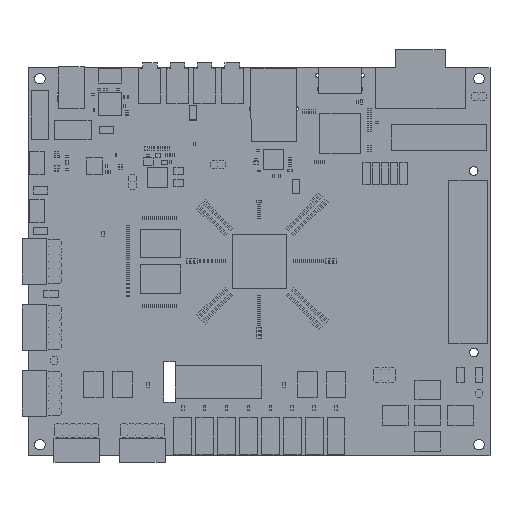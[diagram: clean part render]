
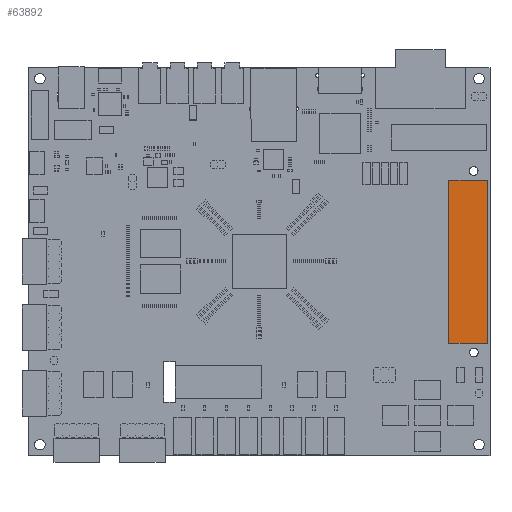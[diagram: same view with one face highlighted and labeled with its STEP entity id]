
A CAD part, top view. The second image highlights one B-rep face of the part: STEP entity #63892.
In plain terms, the highlighted planar face has unit normal (0, 0, 1).
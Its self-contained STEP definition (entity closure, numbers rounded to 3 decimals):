
#63578 = VERTEX_POINT('',#63579);
#63579 = CARTESIAN_POINT('',(-6.625,28.3,4.37));
#63586 = PLANE('',#63587);
#63587 = AXIS2_PLACEMENT_3D('',#63588,#63589,#63590);
#63588 = CARTESIAN_POINT('',(-6.625,28.3,0.));
#63589 = DIRECTION('',(0.,1.,0.));
#63590 = DIRECTION('',(1.,0.,0.));
#63598 = PLANE('',#63599);
#63599 = AXIS2_PLACEMENT_3D('',#63600,#63601,#63602);
#63600 = CARTESIAN_POINT('',(-6.625,-28.3,0.));
#63601 = DIRECTION('',(-1.,0.,0.));
#63602 = DIRECTION('',(0.,1.,0.));
#63610 = EDGE_CURVE('',#63578,#63611,#63613,.T.);
#63611 = VERTEX_POINT('',#63612);
#63612 = CARTESIAN_POINT('',(6.625,28.3,4.37));
#63613 = SURFACE_CURVE('',#63614,(#63618,#63625),.PCURVE_S1.);
#63614 = LINE('',#63615,#63616);
#63615 = CARTESIAN_POINT('',(-6.625,28.3,4.37));
#63616 = VECTOR('',#63617,1.);
#63617 = DIRECTION('',(1.,0.,0.));
#63618 = PCURVE('',#63586,#63619);
#63619 = DEFINITIONAL_REPRESENTATION('',(#63620),#63624);
#63620 = LINE('',#63621,#63622);
#63621 = CARTESIAN_POINT('',(0.,-4.37));
#63622 = VECTOR('',#63623,1.);
#63623 = DIRECTION('',(1.,0.));
#63624 = ( GEOMETRIC_REPRESENTATION_CONTEXT(2) 
PARAMETRIC_REPRESENTATION_CONTEXT() REPRESENTATION_CONTEXT('2D SPACE',''
  ) );
#63625 = PCURVE('',#63626,#63631);
#63626 = PLANE('',#63627);
#63627 = AXIS2_PLACEMENT_3D('',#63628,#63629,#63630);
#63628 = CARTESIAN_POINT('',(-6.625,28.3,4.37));
#63629 = DIRECTION('',(0.,0.,1.));
#63630 = DIRECTION('',(1.,0.,0.));
#63631 = DEFINITIONAL_REPRESENTATION('',(#63632),#63636);
#63632 = LINE('',#63633,#63634);
#63633 = CARTESIAN_POINT('',(0.,0.));
#63634 = VECTOR('',#63635,1.);
#63635 = DIRECTION('',(1.,0.));
#63636 = ( GEOMETRIC_REPRESENTATION_CONTEXT(2) 
PARAMETRIC_REPRESENTATION_CONTEXT() REPRESENTATION_CONTEXT('2D SPACE',''
  ) );
#63654 = PLANE('',#63655);
#63655 = AXIS2_PLACEMENT_3D('',#63656,#63657,#63658);
#63656 = CARTESIAN_POINT('',(6.625,28.3,0.));
#63657 = DIRECTION('',(1.,0.,0.));
#63658 = DIRECTION('',(0.,-1.,0.));
#63696 = EDGE_CURVE('',#63611,#63697,#63699,.T.);
#63697 = VERTEX_POINT('',#63698);
#63698 = CARTESIAN_POINT('',(6.625,-28.3,4.37));
#63699 = SURFACE_CURVE('',#63700,(#63704,#63711),.PCURVE_S1.);
#63700 = LINE('',#63701,#63702);
#63701 = CARTESIAN_POINT('',(6.625,28.3,4.37));
#63702 = VECTOR('',#63703,1.);
#63703 = DIRECTION('',(0.,-1.,0.));
#63704 = PCURVE('',#63654,#63705);
#63705 = DEFINITIONAL_REPRESENTATION('',(#63706),#63710);
#63706 = LINE('',#63707,#63708);
#63707 = CARTESIAN_POINT('',(0.,-4.37));
#63708 = VECTOR('',#63709,1.);
#63709 = DIRECTION('',(1.,0.));
#63710 = ( GEOMETRIC_REPRESENTATION_CONTEXT(2) 
PARAMETRIC_REPRESENTATION_CONTEXT() REPRESENTATION_CONTEXT('2D SPACE',''
  ) );
#63711 = PCURVE('',#63626,#63712);
#63712 = DEFINITIONAL_REPRESENTATION('',(#63713),#63717);
#63713 = LINE('',#63714,#63715);
#63714 = CARTESIAN_POINT('',(13.25,0.));
#63715 = VECTOR('',#63716,1.);
#63716 = DIRECTION('',(0.,-1.));
#63717 = ( GEOMETRIC_REPRESENTATION_CONTEXT(2) 
PARAMETRIC_REPRESENTATION_CONTEXT() REPRESENTATION_CONTEXT('2D SPACE',''
  ) );
#63735 = PLANE('',#63736);
#63736 = AXIS2_PLACEMENT_3D('',#63737,#63738,#63739);
#63737 = CARTESIAN_POINT('',(6.625,-28.3,0.));
#63738 = DIRECTION('',(0.,-1.,0.));
#63739 = DIRECTION('',(-1.,0.,0.));
#63772 = EDGE_CURVE('',#63697,#63773,#63775,.T.);
#63773 = VERTEX_POINT('',#63774);
#63774 = CARTESIAN_POINT('',(-6.625,-28.3,4.37));
#63775 = SURFACE_CURVE('',#63776,(#63780,#63787),.PCURVE_S1.);
#63776 = LINE('',#63777,#63778);
#63777 = CARTESIAN_POINT('',(6.625,-28.3,4.37));
#63778 = VECTOR('',#63779,1.);
#63779 = DIRECTION('',(-1.,0.,0.));
#63780 = PCURVE('',#63735,#63781);
#63781 = DEFINITIONAL_REPRESENTATION('',(#63782),#63786);
#63782 = LINE('',#63783,#63784);
#63783 = CARTESIAN_POINT('',(0.,-4.37));
#63784 = VECTOR('',#63785,1.);
#63785 = DIRECTION('',(1.,0.));
#63786 = ( GEOMETRIC_REPRESENTATION_CONTEXT(2) 
PARAMETRIC_REPRESENTATION_CONTEXT() REPRESENTATION_CONTEXT('2D SPACE',''
  ) );
#63787 = PCURVE('',#63626,#63788);
#63788 = DEFINITIONAL_REPRESENTATION('',(#63789),#63793);
#63789 = LINE('',#63790,#63791);
#63790 = CARTESIAN_POINT('',(13.25,-56.6));
#63791 = VECTOR('',#63792,1.);
#63792 = DIRECTION('',(-1.,0.));
#63793 = ( GEOMETRIC_REPRESENTATION_CONTEXT(2) 
PARAMETRIC_REPRESENTATION_CONTEXT() REPRESENTATION_CONTEXT('2D SPACE',''
  ) );
#63843 = EDGE_CURVE('',#63773,#63578,#63844,.T.);
#63844 = SURFACE_CURVE('',#63845,(#63849,#63856),.PCURVE_S1.);
#63845 = LINE('',#63846,#63847);
#63846 = CARTESIAN_POINT('',(-6.625,-28.3,4.37));
#63847 = VECTOR('',#63848,1.);
#63848 = DIRECTION('',(0.,1.,0.));
#63849 = PCURVE('',#63598,#63850);
#63850 = DEFINITIONAL_REPRESENTATION('',(#63851),#63855);
#63851 = LINE('',#63852,#63853);
#63852 = CARTESIAN_POINT('',(0.,-4.37));
#63853 = VECTOR('',#63854,1.);
#63854 = DIRECTION('',(1.,0.));
#63855 = ( GEOMETRIC_REPRESENTATION_CONTEXT(2) 
PARAMETRIC_REPRESENTATION_CONTEXT() REPRESENTATION_CONTEXT('2D SPACE',''
  ) );
#63856 = PCURVE('',#63626,#63857);
#63857 = DEFINITIONAL_REPRESENTATION('',(#63858),#63862);
#63858 = LINE('',#63859,#63860);
#63859 = CARTESIAN_POINT('',(0.,-56.6));
#63860 = VECTOR('',#63861,1.);
#63861 = DIRECTION('',(0.,1.));
#63862 = ( GEOMETRIC_REPRESENTATION_CONTEXT(2) 
PARAMETRIC_REPRESENTATION_CONTEXT() REPRESENTATION_CONTEXT('2D SPACE',''
  ) );
#63892 = ADVANCED_FACE('',(#63893),#63626,.T.);
#63893 = FACE_BOUND('',#63894,.F.);
#63894 = EDGE_LOOP('',(#63895,#63896,#63897,#63898));
#63895 = ORIENTED_EDGE('',*,*,#63610,.T.);
#63896 = ORIENTED_EDGE('',*,*,#63696,.T.);
#63897 = ORIENTED_EDGE('',*,*,#63772,.T.);
#63898 = ORIENTED_EDGE('',*,*,#63843,.T.);
